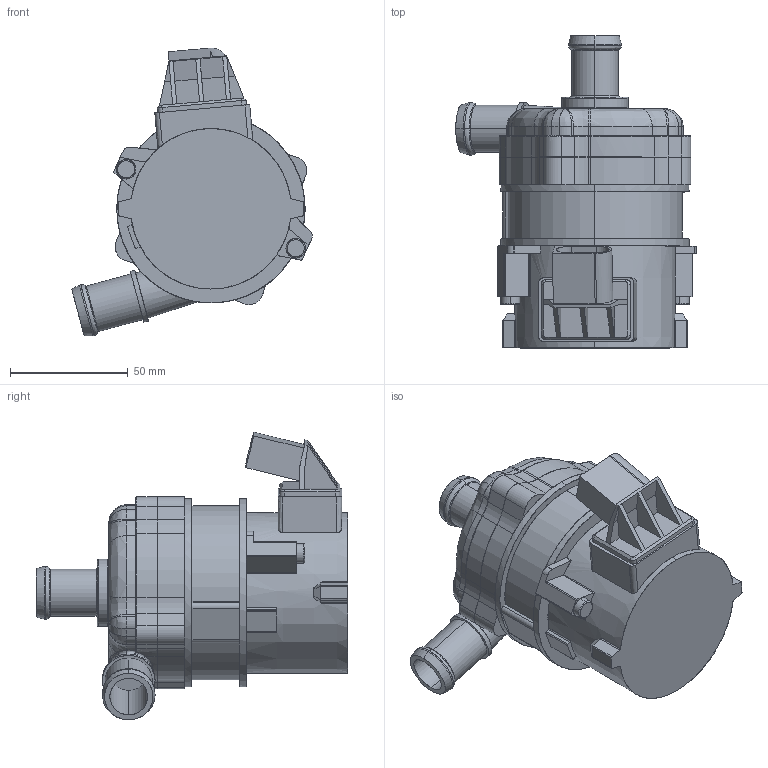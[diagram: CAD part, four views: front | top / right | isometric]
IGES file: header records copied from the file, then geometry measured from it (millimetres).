
Start section: Tecomotive IGES file using analytic representation for surfaces
Global section: file name:                                                                                                                                                                       ; native system: Tecomotive 2021; preprocessor: Tecomotive 2021; author:          ; date: 211126.161215; units: millimetre
Bounding box: 102.19 x 132.6 x 122.36 mm (x, y, z)
Surface area: 52012.7 mm2 (no closed solid volume)
Topology: 0 solids, 0 shells, 417 faces, 4383 edges, 4375 vertices
Faces by surface type: bspline 237, revolution 180
